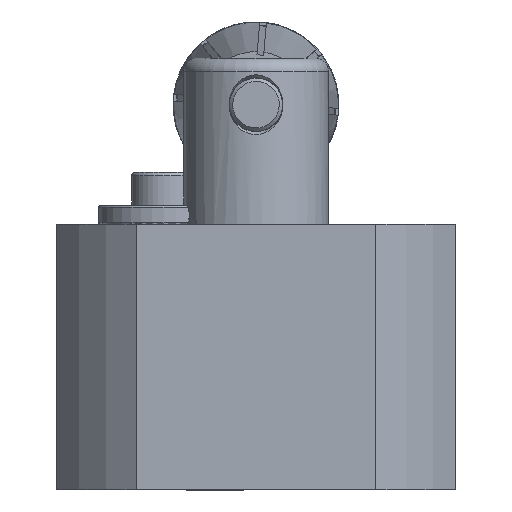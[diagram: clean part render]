
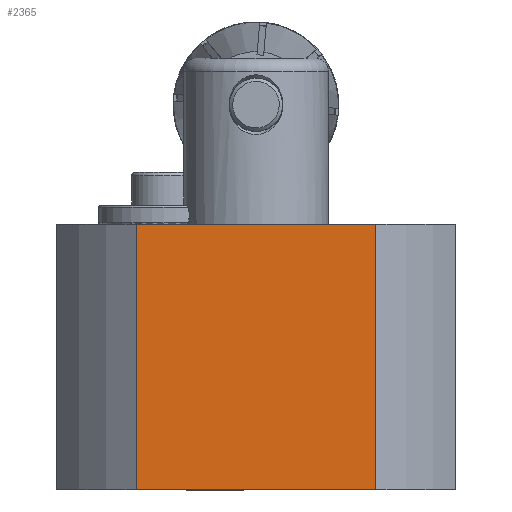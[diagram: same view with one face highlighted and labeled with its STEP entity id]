
A CAD part, left-side view. The second image highlights one B-rep face of the part: STEP entity #2365.
In plain terms, the highlighted planar face has unit normal (-1, 0, 0).
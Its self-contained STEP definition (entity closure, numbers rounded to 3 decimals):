
#34=LINE('',#3526,#146);
#35=LINE('',#3530,#147);
#36=LINE('',#3533,#148);
#37=LINE('',#3534,#149);
#146=VECTOR('',#2850,1000.);
#147=VECTOR('',#2855,1000.);
#148=VECTOR('',#2856,1000.);
#149=VECTOR('',#2857,1000.);
#467=ORIENTED_EDGE('',*,*,#910,.T.);
#468=ORIENTED_EDGE('',*,*,#911,.T.);
#469=ORIENTED_EDGE('',*,*,#908,.T.);
#470=ORIENTED_EDGE('',*,*,#912,.F.);
#908=EDGE_CURVE('',#1144,#1143,#34,.T.);
#910=EDGE_CURVE('',#1145,#1146,#35,.F.);
#911=EDGE_CURVE('',#1146,#1144,#36,.T.);
#912=EDGE_CURVE('',#1145,#1143,#37,.T.);
#1143=VERTEX_POINT('',#3525);
#1144=VERTEX_POINT('',#3527);
#1145=VERTEX_POINT('',#3531);
#1146=VERTEX_POINT('',#3532);
#1429=EDGE_LOOP('',(#467,#468,#469,#470));
#1617=FACE_BOUND('',#1429,.T.);
#1743=PLANE('',#2537);
#2365=ADVANCED_FACE('',(#1617),#1743,.F.);
#2537=AXIS2_PLACEMENT_3D('',#3529,#2853,#2854);
#2850=DIRECTION('',(0.,0.,1.));
#2853=DIRECTION('',(1.,0.,0.));
#2854=DIRECTION('',(0.,0.,-1.));
#2855=DIRECTION('',(0.,0.,1.));
#2856=DIRECTION('',(0.,-1.,0.));
#2857=DIRECTION('',(0.,-1.,0.));
#3525=CARTESIAN_POINT('',(-24.,-18.028,42.5));
#3526=CARTESIAN_POINT('',(-24.,-18.028,22.5));
#3527=CARTESIAN_POINT('',(-24.,-18.028,2.5));
#3529=CARTESIAN_POINT('',(-24.,50.,50.));
#3530=CARTESIAN_POINT('',(-24.,18.028,22.5));
#3531=CARTESIAN_POINT('',(-24.,18.028,42.5));
#3532=CARTESIAN_POINT('',(-24.,18.028,2.5));
#3533=CARTESIAN_POINT('',(-24.,50.,2.5));
#3534=CARTESIAN_POINT('',(-24.,50.,42.5));
